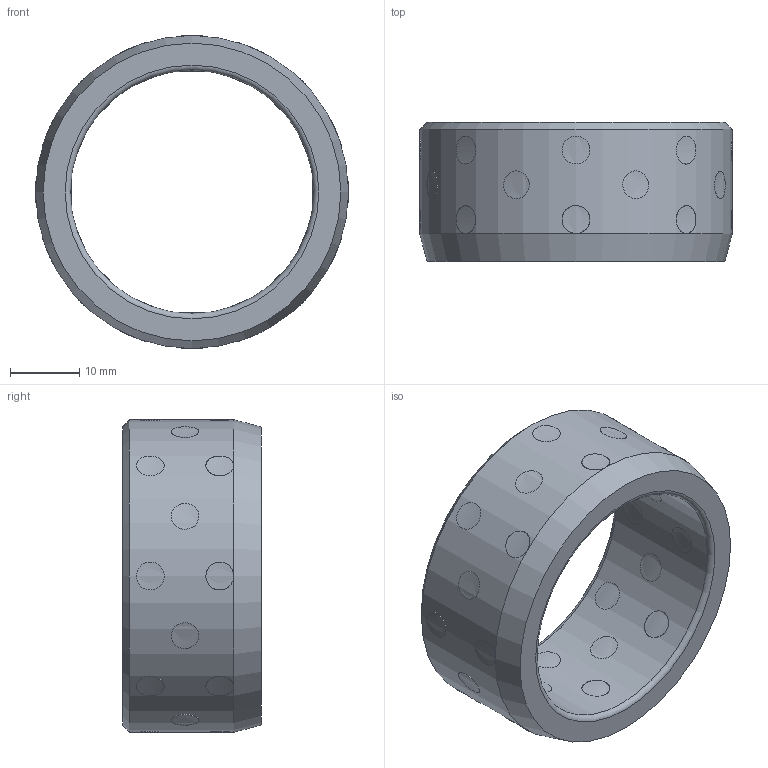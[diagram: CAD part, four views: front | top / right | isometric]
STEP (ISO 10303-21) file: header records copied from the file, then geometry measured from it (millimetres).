
FILE_DESCRIPTION( ( 'STEP AP203' ), '1' );
FILE_NAME( 'D:/Cuma/18 03 2010/D30.04/D30.04_352045.step', '2003-01-24T23:06:37', ( ' ' ), ( ' ' ), 'XStep 1.0', ' ', ' ' );
FILE_SCHEMA( ( 'CONFIG_CONTROL_DESIGN' ) );
Length unit declared in the file: metre
Products named in the file (33): 1; 2; 3; 4; 5; 6; 7; 8; 9; 10; 11; 12; 13; 14; 15; 16; 17; 18; 19; 20; 21; 22; 23; 24; 25; 26; 27; 28; 29; 30; 31; 32; 33
Bounding box: 45 x 20 x 45 mm (x, y, z)
Volume: 14184.8 mm3; surface area: 8807.9 mm2
Topology: 33 solids, 33 shells, 104 faces, 110 edges, 72 vertices
Faces by surface type: cylinder 98, torus 2, plane 2, cone 2
Full cylindrical faces by diameter (mm): 4 x32, 35 x1, 45 x1
Entity records: 6421 total; most frequent: CARTESIAN_POINT 3673, DIRECTION 290, CC_DESIGN_PERSON_AND_ORGANIZATION_ASSIGNMENT 165, AXIS2_PLACEMENT_3D 145, EDGE_LOOP 144, ORIENTED_EDGE 144, FACE_OUTER_BOUND 140, PERSON_AND_ORGANIZATION_ROLE 132
